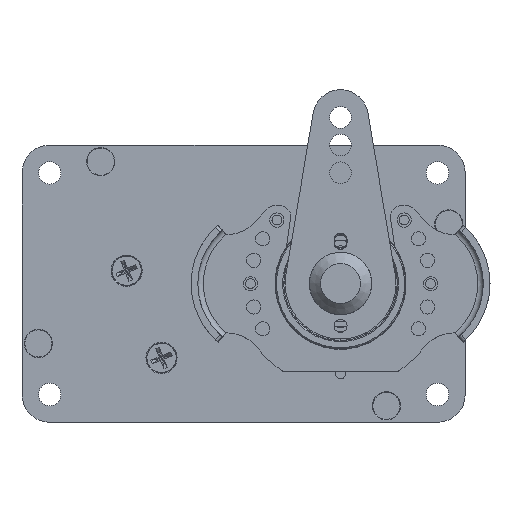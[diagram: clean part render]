
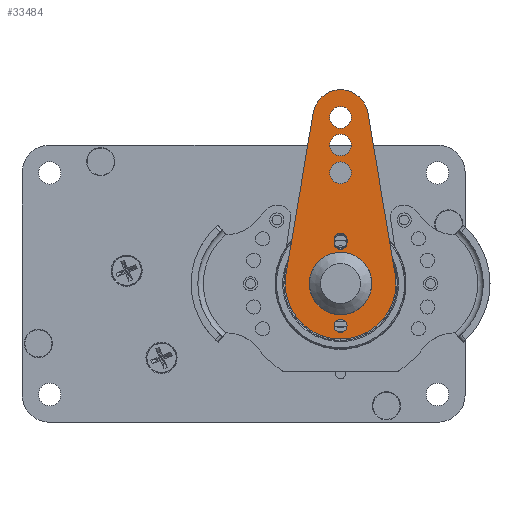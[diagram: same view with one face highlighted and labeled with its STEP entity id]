
A CAD part, top view. The second image highlights one B-rep face of the part: STEP entity #33484.
In plain terms, the highlighted planar face has unit normal (0, 0, 1).
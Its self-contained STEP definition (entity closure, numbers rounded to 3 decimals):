
#12398 = CARTESIAN_POINT ( 'NONE',  ( -57.665, 1.266, 38.236 ) ) ;
#12474 = CARTESIAN_POINT ( 'NONE',  ( -54.665, 0.504, 38.236 ) ) ;
#12476 = CARTESIAN_POINT ( 'NONE',  ( -54.665, 1.266, 38.236 ) ) ;
#12480 = CARTESIAN_POINT ( 'NONE',  ( -57.665, 0.504, 38.236 ) ) ;
#12484 = CARTESIAN_POINT ( 'NONE',  ( -49.904, 30.344, 38.236 ) ) ;
#12488 = CARTESIAN_POINT ( 'NONE',  ( -62.426, 30.344, 38.236 ) ) ;
#12491 = CARTESIAN_POINT ( 'NONE',  ( -68.687, -6.698, 38.236 ) ) ;
#12493 = CARTESIAN_POINT ( 'NONE',  ( -43.643, -6.698, 38.236 ) ) ;
#13846 = AXIS2_PLACEMENT_3D ( 'NONE', #52830, #52831, #52832 ) ;
#13848 = AXIS2_PLACEMENT_3D ( 'NONE', #52837, #52838, #52839 ) ;
#13851 = AXIS2_PLACEMENT_3D ( 'NONE', #52847, #52848, #52849 ) ;
#13852 = AXIS2_PLACEMENT_3D ( 'NONE', #52853, #52854, #52855 ) ;
#13853 = AXIS2_PLACEMENT_3D ( 'NONE', #52858, #52859, #52860 ) ;
#13855 = AXIS2_PLACEMENT_3D ( 'NONE', #52869, #52870, #52871 ) ;
#13856 = AXIS2_PLACEMENT_3D ( 'NONE', #52878, #55579, #55581 ) ;
#13857 = AXIS2_PLACEMENT_3D ( 'NONE', #55585, #55587, #55589 ) ;
#13858 = AXIS2_PLACEMENT_3D ( 'NONE', #55598, #55600, #55602 ) ;
#21508 = CARTESIAN_POINT ( 'NONE',  ( -54.665, -18.515, 38.236 ) ) ;
#21509 = CARTESIAN_POINT ( 'NONE',  ( -53.676, 22.935, 38.236 ) ) ;
#21510 = CARTESIAN_POINT ( 'NONE',  ( -53.676, 29.285, 38.236 ) ) ;
#21511 = CARTESIAN_POINT ( 'NONE',  ( -53.676, 16.585, 38.236 ) ) ;
#21512 = CARTESIAN_POINT ( 'NONE',  ( -49.03, -8.642, 38.236 ) ) ;
#22601 = VERTEX_POINT ( 'NONE', #21508 ) ;
#22603 = VERTEX_POINT ( 'NONE', #21509 ) ;
#22605 = VERTEX_POINT ( 'NONE', #21510 ) ;
#22607 = VERTEX_POINT ( 'NONE', #21511 ) ;
#22609 = VERTEX_POINT ( 'NONE', #21512 ) ;
#33484 = ADVANCED_FACE ( 'NONE', ( #79513, #79516, #79511, #79515, #79494, #79517, #79518 ), #79154, .T. ) ;
#41849 = LINE ( 'NONE', #52818, #41853 ) ;
#41851 = CIRCLE ( 'NONE', #13846, 1.5 ) ;
#41853 = VECTOR ( 'NONE', #52819, 1000. ) ;
#41857 = CIRCLE ( 'NONE', #13848, 1.5 ) ;
#41863 = LINE ( 'NONE', #52826, #41867 ) ;
#41865 = CIRCLE ( 'NONE', #13851, 1.5 ) ;
#41867 = VECTOR ( 'NONE', #52836, 1000. ) ;
#41871 = CIRCLE ( 'NONE', #13852, 2.489 ) ;
#41879 = CIRCLE ( 'NONE', #13853, 6.35 ) ;
#41881 = LINE ( 'NONE', #52861, #41891 ) ;
#41885 = LINE ( 'NONE', #52868, #41903 ) ;
#41891 = VECTOR ( 'NONE', #52862, 1000. ) ;
#41893 = CIRCLE ( 'NONE', #13855, 12.7 ) ;
#41897 = CIRCLE ( 'NONE', #13856, 2.489 ) ;
#41903 = VECTOR ( 'NONE', #52873, 1000. ) ;
#41905 = CIRCLE ( 'NONE', #13857, 2.489 ) ;
#41917 = CIRCLE ( 'NONE', #13858, 7.137 ) ;
#52818 = CARTESIAN_POINT ( 'NONE',  ( -57.665, 1.266, 38.236 ) ) ;
#52819 = DIRECTION ( 'NONE',  ( 0., -1., 0. ) ) ;
#52826 = CARTESIAN_POINT ( 'NONE',  ( -54.665, 1.266, 38.236 ) ) ;
#52830 = CARTESIAN_POINT ( 'NONE',  ( -56.165, 0.504, 38.236 ) ) ;
#52831 = DIRECTION ( 'NONE',  ( 0., 0., 1. ) ) ;
#52832 = DIRECTION ( 'NONE',  ( 1., 0., 0. ) ) ;
#52836 = DIRECTION ( 'NONE',  ( 0., 1., 0. ) ) ;
#52837 = CARTESIAN_POINT ( 'NONE',  ( -56.165, 1.266, 38.236 ) ) ;
#52838 = DIRECTION ( 'NONE',  ( 0., 0., 1. ) ) ;
#52839 = DIRECTION ( 'NONE',  ( 1., 0., 0. ) ) ;
#52847 = CARTESIAN_POINT ( 'NONE',  ( -56.165, -18.515, 38.236 ) ) ;
#52848 = DIRECTION ( 'NONE',  ( 0., 0., 1. ) ) ;
#52849 = DIRECTION ( 'NONE',  ( 1., 0., 0. ) ) ;
#52853 = CARTESIAN_POINT ( 'NONE',  ( -56.165, 22.935, 38.236 ) ) ;
#52854 = DIRECTION ( 'NONE',  ( 0., 0., 1. ) ) ;
#52855 = DIRECTION ( 'NONE',  ( 1., 0., 0. ) ) ;
#52858 = CARTESIAN_POINT ( 'NONE',  ( -56.165, 29.285, 38.236 ) ) ;
#52859 = DIRECTION ( 'NONE',  ( 0., 0., 1. ) ) ;
#52860 = DIRECTION ( 'NONE',  ( 1., 0., 0. ) ) ;
#52861 = CARTESIAN_POINT ( 'NONE',  ( -62.426, 30.344, 38.236 ) ) ;
#52862 = DIRECTION ( 'NONE',  ( -0.167, -0.986, 0. ) ) ;
#52868 = CARTESIAN_POINT ( 'NONE',  ( -49.904, 30.344, 38.236 ) ) ;
#52869 = CARTESIAN_POINT ( 'NONE',  ( -56.165, -8.815, 38.236 ) ) ;
#52870 = DIRECTION ( 'NONE',  ( 0., 0., 1. ) ) ;
#52871 = DIRECTION ( 'NONE',  ( 1., 0., 0. ) ) ;
#52873 = DIRECTION ( 'NONE',  ( -0.167, 0.986, 0. ) ) ;
#52878 = CARTESIAN_POINT ( 'NONE',  ( -56.165, 29.285, 38.236 ) ) ;
#53458 = EDGE_LOOP ( 'NONE', ( #73050, #73052, #73054, #73056 ) ) ;
#53459 = EDGE_LOOP ( 'NONE', ( #73071 ) ) ;
#53460 = EDGE_LOOP ( 'NONE', ( #73060 ) ) ;
#53463 = EDGE_LOOP ( 'NONE', ( #73058 ) ) ;
#53464 = EDGE_LOOP ( 'NONE', ( #73063, #73065, #73067, #73069 ) ) ;
#53466 = EDGE_LOOP ( 'NONE', ( #73073 ) ) ;
#53467 = EDGE_LOOP ( 'NONE', ( #73076 ) ) ;
#54925 = EDGE_CURVE ( 'NONE', #98156, #98201, #41849, .T. ) ;
#54927 = EDGE_CURVE ( 'NONE', #98201, #98197, #41851, .T. ) ;
#54929 = EDGE_CURVE ( 'NONE', #98198, #98156, #41857, .T. ) ;
#54931 = EDGE_CURVE ( 'NONE', #98197, #98198, #41863, .T. ) ;
#54933 = EDGE_CURVE ( 'NONE', #22601, #22601, #41865, .T. ) ;
#54935 = EDGE_CURVE ( 'NONE', #22603, #22603, #41871, .T. ) ;
#54937 = EDGE_CURVE ( 'NONE', #98203, #98205, #41879, .T. ) ;
#54939 = EDGE_CURVE ( 'NONE', #98205, #98207, #41881, .T. ) ;
#54941 = EDGE_CURVE ( 'NONE', #98207, #98208, #41893, .T. ) ;
#54943 = EDGE_CURVE ( 'NONE', #98208, #98203, #41885, .T. ) ;
#54945 = EDGE_CURVE ( 'NONE', #22605, #22605, #41897, .T. ) ;
#54947 = EDGE_CURVE ( 'NONE', #22607, #22607, #41905, .T. ) ;
#54949 = EDGE_CURVE ( 'NONE', #22609, #22609, #41917, .T. ) ;
#55579 = DIRECTION ( 'NONE',  ( 0., 0., 1. ) ) ;
#55581 = DIRECTION ( 'NONE',  ( 1., 0., 0. ) ) ;
#55585 = CARTESIAN_POINT ( 'NONE',  ( -56.165, 16.585, 38.236 ) ) ;
#55587 = DIRECTION ( 'NONE',  ( 0., 0., 1. ) ) ;
#55589 = DIRECTION ( 'NONE',  ( 1., 0., 0. ) ) ;
#55598 = CARTESIAN_POINT ( 'NONE',  ( -56.165, -8.815, 38.236 ) ) ;
#55600 = DIRECTION ( 'NONE',  ( 0., 0., 1. ) ) ;
#55602 = DIRECTION ( 'NONE',  ( 1., 0.024, 0. ) ) ;
#56530 = AXIS2_PLACEMENT_3D ( 'NONE', #79160, #79155, #79161 ) ;
#73050 = ORIENTED_EDGE ( 'NONE', *, *, #54929, .F. ) ;
#73052 = ORIENTED_EDGE ( 'NONE', *, *, #54931, .F. ) ;
#73054 = ORIENTED_EDGE ( 'NONE', *, *, #54927, .F. ) ;
#73056 = ORIENTED_EDGE ( 'NONE', *, *, #54925, .F. ) ;
#73058 = ORIENTED_EDGE ( 'NONE', *, *, #54933, .F. ) ;
#73060 = ORIENTED_EDGE ( 'NONE', *, *, #54935, .F. ) ;
#73063 = ORIENTED_EDGE ( 'NONE', *, *, #54937, .T. ) ;
#73065 = ORIENTED_EDGE ( 'NONE', *, *, #54939, .T. ) ;
#73067 = ORIENTED_EDGE ( 'NONE', *, *, #54941, .T. ) ;
#73069 = ORIENTED_EDGE ( 'NONE', *, *, #54943, .T. ) ;
#73071 = ORIENTED_EDGE ( 'NONE', *, *, #54945, .F. ) ;
#73073 = ORIENTED_EDGE ( 'NONE', *, *, #54947, .F. ) ;
#73076 = ORIENTED_EDGE ( 'NONE', *, *, #54949, .F. ) ;
#79154 = PLANE ( 'NONE',  #56530 ) ;
#79155 = DIRECTION ( 'NONE',  ( 0., 0., 1. ) ) ;
#79160 = CARTESIAN_POINT ( 'NONE',  ( -56.165, 29.285, 38.236 ) ) ;
#79161 = DIRECTION ( 'NONE',  ( 1., 0., 0. ) ) ;
#79494 = FACE_BOUND ( 'NONE', #53459, .T. ) ;
#79511 = FACE_BOUND ( 'NONE', #53460, .T. ) ;
#79513 = FACE_BOUND ( 'NONE', #53458, .T. ) ;
#79515 = FACE_OUTER_BOUND ( 'NONE', #53464, .T. ) ;
#79516 = FACE_BOUND ( 'NONE', #53463, .T. ) ;
#79517 = FACE_BOUND ( 'NONE', #53466, .T. ) ;
#79518 = FACE_BOUND ( 'NONE', #53467, .T. ) ;
#98156 = VERTEX_POINT ( 'NONE', #12398 ) ;
#98197 = VERTEX_POINT ( 'NONE', #12474 ) ;
#98198 = VERTEX_POINT ( 'NONE', #12476 ) ;
#98201 = VERTEX_POINT ( 'NONE', #12480 ) ;
#98203 = VERTEX_POINT ( 'NONE', #12484 ) ;
#98205 = VERTEX_POINT ( 'NONE', #12488 ) ;
#98207 = VERTEX_POINT ( 'NONE', #12491 ) ;
#98208 = VERTEX_POINT ( 'NONE', #12493 ) ;
